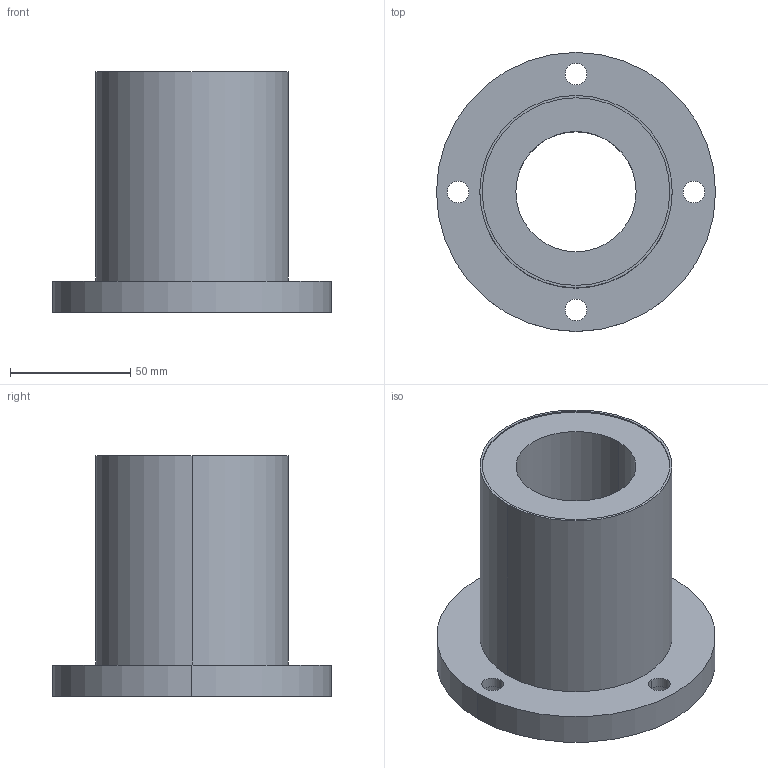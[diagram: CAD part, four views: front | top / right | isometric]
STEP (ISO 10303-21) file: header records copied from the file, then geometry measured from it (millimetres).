
FILE_DESCRIPTION((''),'2;1');
FILE_NAME('C:\Documents and Settings\ｿﾀﾀ蠑ｷ1\ｹﾙﾅﾁ ﾈｭｸ饅\ｺﾎﾇｰﾆﾄﾀﾏ\ﾁｦﾇｰ\LMF__UU\LMF50UU.stp','2005-06-15T09:39:38',('ｿﾀﾀ蠑ｷ1'),(''),'Autodesk Inventor 9','Autodesk Inventor 9','');
FILE_SCHEMA(('AUTOMOTIVE_DESIGN { 1 0 10303 214 1 1 1 1 }'));
Length unit declared in the file: millimetre
Products named in the file (1): LMF__
Bounding box: 116 x 116 x 100 mm (x, y, z)
Volume: 368762.3 mm3; surface area: 61120.9 mm2
Topology: 1 solids, 1 shells, 38 faces, 84 edges, 56 vertices
Faces by surface type: cylinder 28, plane 10
Entity records: 1127 total; most frequent: DIRECTION 218, CARTESIAN_POINT 179, ORIENTED_EDGE 168, AXIS2_PLACEMENT_3D 95, EDGE_CURVE 84, VERTEX_POINT 56, CIRCLE 56, EDGE_LOOP 56
